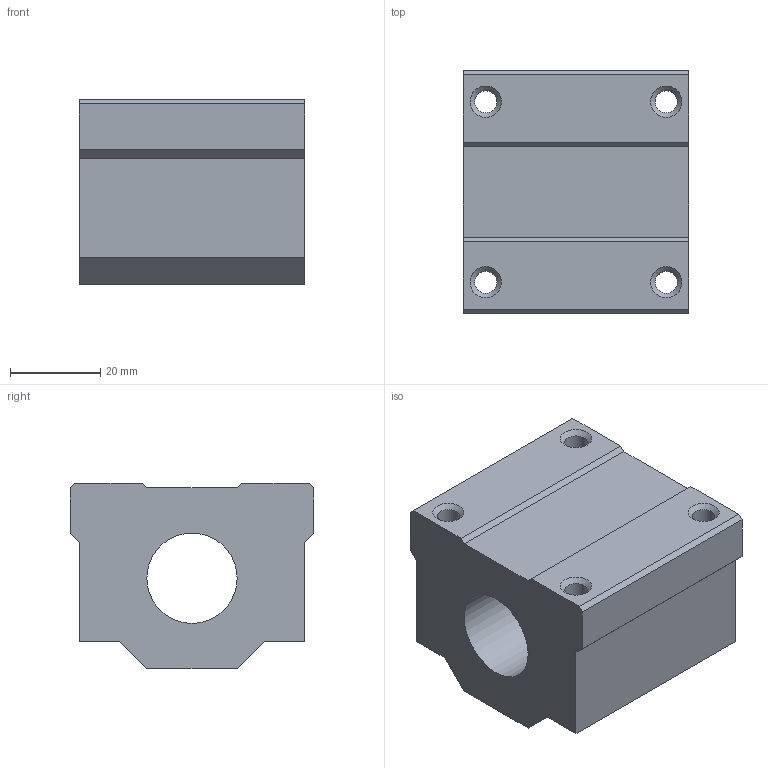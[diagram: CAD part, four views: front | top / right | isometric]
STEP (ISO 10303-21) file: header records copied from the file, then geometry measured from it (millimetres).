
FILE_DESCRIPTION(/* description */ (''),/* implementation_level */ '2;1');
FILE_NAME(/* name */ 'C:\Users\Nick_2\Desktop\Linearwagen D20 LFS.stp',/* time_stamp */ '2017-09-06T14:12:20+02:00',/* author */ ('Nick_2'),/* organization */ (''),/* preprocessor_version */ 'ST-DEVELOPER v16.5',/* originating_system */ 'Autodesk Inventor 2017',/* authorisation */ '');
FILE_SCHEMA (('AUTOMOTIVE_DESIGN { 1 0 10303 214 3 1 1 }'));
Length unit declared in the file: millimetre
Products named in the file (1): ZWagen
Bounding box: 50 x 54 x 41 mm (x, y, z)
Volume: 78198.6 mm3; surface area: 17371.2 mm2
Topology: 1 solids, 1 shells, 29 faces, 81 edges, 54 vertices
Faces by surface type: plane 20, cylinder 5, cone 4
Full cylindrical faces by diameter (mm): 4.917 x4, 20 x1
Entity records: 898 total; most frequent: CARTESIAN_POINT 148, DIRECTION 142, ORIENTED_EDGE 136, EDGE_CURVE 68, LINE 54, VECTOR 54, VERTEX_POINT 50, EDGE_LOOP 48
